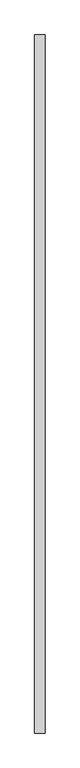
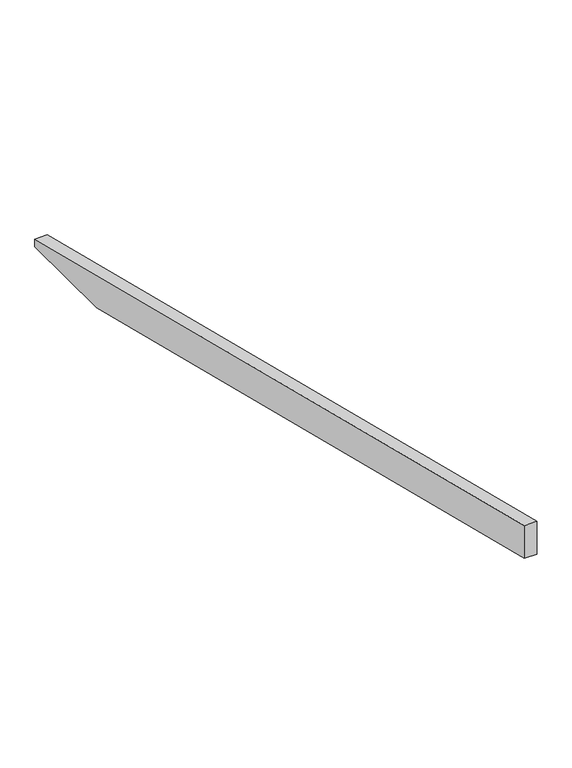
"""IFC4 building model written with IfcOpenShell, lengths in millimetres: proxy geometry, Modelos genéricos 13 : Modelos genéricos 12."""

import ifcopenshell
import ifcopenshell.guid

model = None  # the IFC model being written
_history = None  # IfcOwnerHistory: only IFC2X3 demands one
_inside = {}  # id of a spatial element -> (the spatial element, [elements in it])
_under = {}  # id of a project, library or spatial element -> (it, [spatial elements below it])
_declared = {}  # id of a project -> (the project, [libraries it declares])
_typed = {}  # id of a type object -> (the type object, [elements of that type])
_made_of = {}  # id of a material, layer set ... -> (it, [elements and type objects made of it])


def new_model(schema):
    """Start an empty IFC model of exactly this schema.

    Asked for "IFC4X3", IfcOpenShell would pick the latest addendum, in which some entities
    have other attributes; the version numbers below select the first issue.
    IFC2X3 requires an IfcOwnerHistory on every rooted entity: one is made here for all.
    """
    global model, _history
    if schema == "IFC4X3":
        model = ifcopenshell.file(schema_version=(4, 3, 0, 0))
    else:
        model = ifcopenshell.file(schema=schema)
    _inside.clear()
    _under.clear()
    _declared.clear()
    _typed.clear()
    _made_of.clear()
    _history = None
    if model.schema == "IFC2X3":
        org = make("IfcOrganization", Name="unknown")
        user = make(
            "IfcPersonAndOrganization",
            ThePerson=make("IfcPerson", FamilyName="unknown"),
            TheOrganization=org,
        )
        app = make(
            "IfcApplication",
            ApplicationDeveloper=org,
            Version="unknown",
            ApplicationFullName="unknown",
            ApplicationIdentifier="unknown",
        )
        _history = make(
            "IfcOwnerHistory",
            OwningUser=user,
            OwningApplication=app,
            ChangeAction="ADDED",
            CreationDate=0,
        )
    return model


def make(cls, **values):
    """One entity of the class cls with the attributes given. An attribute that is None is left unset."""
    return model.create_entity(
        cls, **{name: value for name, value in values.items() if value is not None}
    )


def rooted(cls, **values):
    """An entity with a GlobalId (a new one), such as an element, a storey or a relation."""
    return make(cls, GlobalId=ifcopenshell.guid.new(), OwnerHistory=_history, **values)


def si_unit(unit_type, name, prefix=None):
    """IfcSIUnit, for example si_unit("LENGTHUNIT", "METRE", prefix="MILLI")."""
    return make("IfcSIUnit", UnitType=unit_type, Prefix=prefix, Name=name)


def assignment(units):
    """IfcUnitAssignment: the units of a project."""
    return None if units is None else make("IfcUnitAssignment", Units=units)


def point(xyz):
    """IfcCartesianPoint."""
    return None if xyz is None else make("IfcCartesianPoint", Coordinates=xyz)


def direction(xyz):
    """IfcDirection."""
    return None if xyz is None else make("IfcDirection", DirectionRatios=xyz)


def frame(location, z_axis=None, x_axis=None):
    """IfcAxis2Placement3D, a coordinate frame: its origin and axes. An axis left out is left unset."""
    return make(
        "IfcAxis2Placement3D",
        Location=point(location),
        Axis=direction(z_axis),
        RefDirection=direction(x_axis),
    )


def origin():
    """The frame at (0, 0, 0) with its axes left unset."""
    return frame((0.0, 0.0, 0.0))


def place(relative_to, where):
    """IfcLocalPlacement: puts the frame where relative to a parent placement (None: the world)."""
    return make(
        "IfcLocalPlacement", PlacementRelTo=relative_to, RelativePlacement=where
    )


def context(
    kind, dimensions, precision=None, world=None, true_north=None, identifier=None
):
    """IfcGeometricRepresentationContext, for example the 3D "Model" context."""
    return make(
        "IfcGeometricRepresentationContext",
        ContextIdentifier=identifier,
        ContextType=kind,
        CoordinateSpaceDimension=dimensions,
        Precision=precision,
        WorldCoordinateSystem=world,
        TrueNorth=true_north,
    )


def project(units=None, contexts=None):
    """IfcProject with its units and contexts."""
    return rooted(
        "IfcProject",
        Name="project",
        RepresentationContexts=contexts,
        UnitsInContext=assignment(units),
    )


def spatial(cls, under=None, at=None, **own):
    """A site, building, storey or space (cls), placed at a placement, below another one or the project."""
    s = rooted(cls, ObjectPlacement=at, **own)
    if under is not None:
        _under.setdefault(under.id(), (under, []))[1].append(s)
    return s


def polyline(points):
    """IfcPolyline through the points."""
    return make("IfcPolyline", Points=[point(p) for p in points])


def outline(outer, holes=None, kind="AREA"):
    """IfcArbitraryClosedProfileDef: a profile drawn as a closed curve; with holes, ...WithVoids."""
    if holes is None:
        return make("IfcArbitraryClosedProfileDef", ProfileType=kind, OuterCurve=outer)
    return make(
        "IfcArbitraryProfileDefWithVoids",
        ProfileType=kind,
        OuterCurve=outer,
        InnerCurves=holes,
    )


def extrude(swept, where, along, depth):
    """IfcExtrudedAreaSolid: the profile swept, set in the frame where, extruded along a direction by depth."""
    return make(
        "IfcExtrudedAreaSolid",
        SweptArea=swept,
        Position=where,
        ExtrudedDirection=direction(along),
        Depth=depth,
    )


def shape(context_of_items, identifier, shape_type, items):
    """IfcShapeRepresentation: the items that make up one representation, for example the "Body"."""
    return make(
        "IfcShapeRepresentation",
        ContextOfItems=context_of_items,
        RepresentationIdentifier=identifier,
        RepresentationType=shape_type,
        Items=items,
    )


def source(mapping_origin, context_of_items, identifier, shape_type, items):
    """IfcRepresentationMap: a shape defined once, which mapped items show again and again."""
    return make(
        "IfcRepresentationMap",
        MappingOrigin=mapping_origin,
        MappedRepresentation=shape(context_of_items, identifier, shape_type, items),
    )


def transform(
    local_origin,
    x_axis=None,
    y_axis=None,
    z_axis=None,
    scale=None,
    scale2=None,
    scale3=None,
    uniform=True,
):
    """IfcCartesianTransformationOperator3D, or its non-uniform kind. x_axis, y_axis, z_axis: its Axis1, 2, 3."""
    if uniform:
        return make(
            "IfcCartesianTransformationOperator3D",
            Axis1=direction(x_axis),
            Axis2=direction(y_axis),
            LocalOrigin=point(local_origin),
            Scale=scale,
            Axis3=direction(z_axis),
        )
    return make(
        "IfcCartesianTransformationOperator3DnonUniform",
        Axis1=direction(x_axis),
        Axis2=direction(y_axis),
        LocalOrigin=point(local_origin),
        Scale=scale,
        Axis3=direction(z_axis),
        Scale2=scale2,
        Scale3=scale3,
    )


def mapped(mapping_source, mapping_target):
    """IfcMappedItem: shows the shape of a source again, moved by a transform."""
    return make(
        "IfcMappedItem", MappingSource=mapping_source, MappingTarget=mapping_target
    )


def made_of(thing, what):
    """Note that an element or type object is made of a material, layer set ...; save() writes the relation."""
    if what is not None:
        _made_of.setdefault(what.id(), (what, []))[1].append(thing)
    return thing


def element(
    cls,
    number,
    at=None,
    inside=None,
    cuts=None,
    type_object=None,
    material=None,
    context=None,
    identifier="Body",
    shape_type=None,
    held_by="IfcProductDefinitionShape",
    body=None,
    shapes=None,
    **own,
):
    """One element of the class cls, such as IfcWall. Its Tag is "e" and its number.

    at: its placement. inside: the storey or other place that contains it. cuts: it is an
    opening in that element (IfcRelVoidsElement). A single representation is given by context,
    identifier, shape_type and body (its items); several are given by shapes. held_by: the class
    of the entity that holds the representations. save() writes the other relations.
    """
    e = rooted(cls, Tag="e%d" % number, ObjectPlacement=at, **own)
    if body is not None:
        shapes = [shape(context, identifier, shape_type, body)]
    if shapes is not None:
        e.Representation = make(held_by, Representations=shapes)
    if inside is not None:
        _inside.setdefault(inside.id(), (inside, []))[1].append(e)
    if cuts is not None:
        rooted(
            "IfcRelVoidsElement", RelatingBuildingElement=cuts, RelatedOpeningElement=e
        )
    if type_object is not None:
        _typed.setdefault(type_object.id(), (type_object, []))[1].append(e)
    return made_of(e, material)


def aggregate(whole, parts):
    """IfcRelAggregates: a whole, such as a stair, and the parts it consists of."""
    return rooted("IfcRelAggregates", RelatingObject=whole, RelatedObjects=parts)


def save(model, path):
    """Write the relations noted so far, then the file.

    IfcRelAggregates (storeys below a building ...), IfcRelContainedInSpatialStructure (elements
    in a storey), IfcRelDefinesByType, IfcRelAssociatesMaterial and IfcRelDeclares: one each for
    every whole, place, type object, material and project.
    """
    for whole, parts in _under.values():
        aggregate(whole, parts)
    for where, things in _inside.values():
        rooted(
            "IfcRelContainedInSpatialStructure",
            RelatedElements=things,
            RelatingStructure=where,
        )
    for kind, things in _typed.values():
        rooted("IfcRelDefinesByType", RelatedObjects=things, RelatingType=kind)
    for what, things in _made_of.values():
        rooted("IfcRelAssociatesMaterial", RelatedObjects=things, RelatingMaterial=what)
    for by, libraries in _declared.values():
        rooted("IfcRelDeclares", RelatingContext=by, RelatedDefinitions=libraries)
    model.write(path)


def generic_models_455c2726(model_context):
    return source(origin(), model_context, "Body", "SweptSolid", [
        extrude(outline(polyline([(6078.6238165, 3197.4798401), (6078.6238165, 3160.0), (5567.5767654, 3160.0), (2018.6238165, 4044.8533509), (2018.6238165, 4209.7515316), (6078.6238165, 3197.4798401)])), frame((-12676.5527533, 0.0, 0.0), z_axis=(1.0, 0.0, 0.0), x_axis=(0.0, 1.0, 0.0)), (0.0, 0.0, 1.0), 60.0),
    ])


if __name__ == "__main__":
    model = new_model("IFC4")
    model_context = context("Model", 3, world=origin())
    ifc_project = project(units=[si_unit("LENGTHUNIT", "METRE", prefix="MILLI")], contexts=[model_context])
    site = spatial("IfcSite", under=ifc_project)
    building = spatial("IfcBuilding", under=site)
    placement = place(None, origin())
    generic_models_shape = generic_models_455c2726(model_context)
    element("IfcBuildingElementProxy", 1, Name="Modelos genéricos 13 : Modelos genéricos 12", ObjectType="Modelos genéricos 13 : Modelos genéricos 12", at=placement, inside=building, context=model_context, shape_type="MappedRepresentation", body=[
        mapped(generic_models_shape, transform((0.0, 0.0, 0.0), x_axis=(1.0, 0.0, 0.0), y_axis=(0.0, 1.0, 0.0), z_axis=(0.0, 0.0, 1.0))),
    ])
    save(model, "model.ifc")
